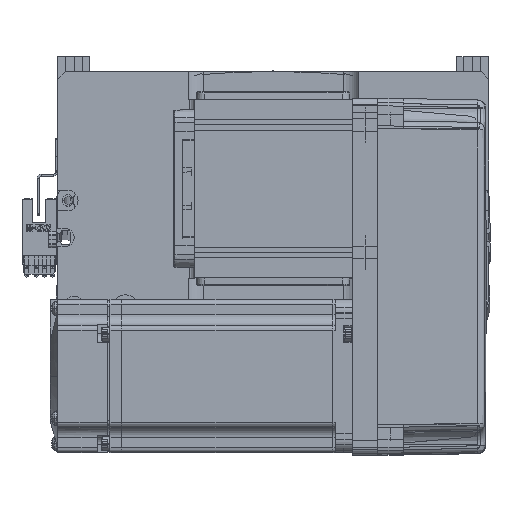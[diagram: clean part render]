
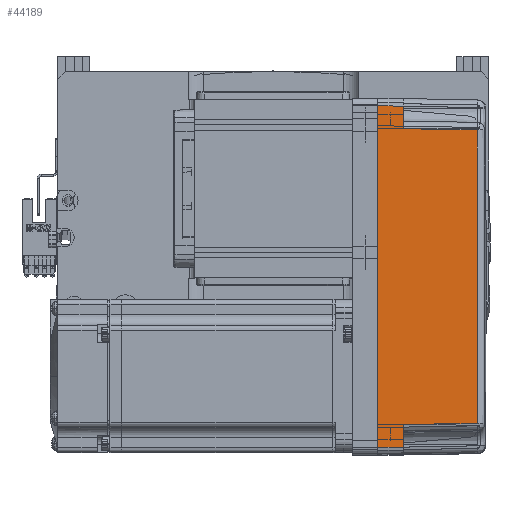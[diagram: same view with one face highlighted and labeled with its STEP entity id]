
A CAD part, top view. The second image highlights one B-rep face of the part: STEP entity #44189.
In plain terms, the highlighted planar face has unit normal (0.018, 0, 1) as drawn and (0, 1, 0.017) by its records, which use the part's own axes.
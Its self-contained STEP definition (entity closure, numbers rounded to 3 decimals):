
#1315 = CARTESIAN_POINT ( 'NONE',  ( 66.826, 35.825, 10. ) ) ;
#3285 = CARTESIAN_POINT ( 'NONE',  ( 67., 36., 0. ) ) ;
#3405 = EDGE_CURVE ( 'NONE', #14090, #61531, #3483, .T. ) ;
#3483 = LINE ( 'NONE', #61075, #48564 ) ;
#3934 = VERTEX_POINT ( 'NONE', #1315 ) ;
#3970 = EDGE_CURVE ( 'NONE', #61531, #47055, #40268, .T. ) ;
#5546 = CARTESIAN_POINT ( 'NONE',  ( -67., 36., 0. ) ) ;
#5758 = DIRECTION ( 'NONE',  ( 0., -0.017, 1. ) ) ;
#5874 = CARTESIAN_POINT ( 'NONE',  ( -58., 35.825, 10. ) ) ;
#7481 = DIRECTION ( 'NONE',  ( 1., 0., 0. ) ) ;
#10750 = VECTOR ( 'NONE', #25927, 1000. ) ;
#12037 = LINE ( 'NONE', #54346, #39156 ) ;
#13147 = EDGE_CURVE ( 'NONE', #65992, #3934, #12037, .T. ) ;
#14090 = VERTEX_POINT ( 'NONE', #63129 ) ;
#14464 = CARTESIAN_POINT ( 'NONE',  ( -57.495, 35.32, 38.985 ) ) ;
#15263 = ORIENTED_EDGE ( 'NONE', *, *, #13147, .F. ) ;
#15356 = CARTESIAN_POINT ( 'NONE',  ( 0., 36., 0. ) ) ;
#15633 = LINE ( 'NONE', #15356, #10750 ) ;
#15829 = CARTESIAN_POINT ( 'NONE',  ( 70., 36., 0. ) ) ;
#16082 = DIRECTION ( 'NONE',  ( 0.017, -0.017, 1. ) ) ;
#17054 = DIRECTION ( 'NONE',  ( -0.017, -0.017, 1. ) ) ;
#19105 = DIRECTION ( 'NONE',  ( 0.017, 0.017, -1. ) ) ;
#21355 = VECTOR ( 'NONE', #19105, 1000. ) ;
#21622 = EDGE_LOOP ( 'NONE', ( #33306, #45573, #32014, #61771, #47780, #45330, #15263, #58359 ) ) ;
#22398 = VECTOR ( 'NONE', #7481, 1000. ) ;
#24231 = VECTOR ( 'NONE', #16082, 1000. ) ;
#24934 = VERTEX_POINT ( 'NONE', #33078 ) ;
#25927 = DIRECTION ( 'NONE',  ( 1., 0., 0. ) ) ;
#29297 = CARTESIAN_POINT ( 'NONE',  ( -19.165, 35.316, 39.181 ) ) ;
#29522 = VECTOR ( 'NONE', #38017, 1000. ) ;
#29667 = EDGE_CURVE ( 'NONE', #24934, #14090, #30775, .T. ) ;
#30775 = LINE ( 'NONE', #5546, #24231 ) ;
#30778 = EDGE_CURVE ( 'NONE', #47055, #63508, #53755, .T. ) ;
#32014 = ORIENTED_EDGE ( 'NONE', *, *, #3970, .T. ) ;
#33078 = CARTESIAN_POINT ( 'NONE',  ( -67., 36., 0. ) ) ;
#33306 = ORIENTED_EDGE ( 'NONE', *, *, #29667, .T. ) ;
#33926 = EDGE_CURVE ( 'NONE', #63508, #41965, #35313, .T. ) ;
#35313 = LINE ( 'NONE', #45662, #21355 ) ;
#35316 = AXIS2_PLACEMENT_3D ( 'NONE', #15829, #63011, #5758 ) ;
#37732 = CARTESIAN_POINT ( 'NONE',  ( 58., 35.825, 10. ) ) ;
#38017 = DIRECTION ( 'NONE',  ( 0.017, -0.017, 1. ) ) ;
#38949 = CARTESIAN_POINT ( 'NONE',  ( 70., 35.825, 10. ) ) ;
#39156 = VECTOR ( 'NONE', #17054, 1000. ) ;
#40159 = CARTESIAN_POINT ( 'NONE',  ( 57.495, 35.32, 38.985 ) ) ;
#40268 = LINE ( 'NONE', #5874, #29522 ) ;
#40603 = CARTESIAN_POINT ( 'NONE',  ( 19.165, 35.316, 39.181 ) ) ;
#41965 = VERTEX_POINT ( 'NONE', #37732 ) ;
#44189 = ADVANCED_FACE ( 'NONE', ( #63776 ), #47273, .T. ) ;
#44556 = CARTESIAN_POINT ( 'NONE',  ( 57.495, 35.32, 38.985 ) ) ;
#44664 = CARTESIAN_POINT ( 'NONE',  ( -58., 35.825, 10. ) ) ;
#45330 = ORIENTED_EDGE ( 'NONE', *, *, #55772, .T. ) ;
#45573 = ORIENTED_EDGE ( 'NONE', *, *, #3405, .T. ) ;
#45662 = CARTESIAN_POINT ( 'NONE',  ( 57.495, 35.32, 38.985 ) ) ;
#47055 = VERTEX_POINT ( 'NONE', #14464 ) ;
#47273 = PLANE ( 'NONE',  #35316 ) ;
#47780 = ORIENTED_EDGE ( 'NONE', *, *, #33926, .T. ) ;
#48564 = VECTOR ( 'NONE', #55816, 1000. ) ;
#49381 = EDGE_CURVE ( 'NONE', #24934, #65992, #15633, .T. ) ;
#51898 = LINE ( 'NONE', #38949, #22398 ) ;
#53755 = B_SPLINE_CURVE_WITH_KNOTS ( 'NONE', 3,
 ( #60904, #29297, #40603, #40159 ),
 .UNSPECIFIED., .F., .F.,
 ( 4, 4 ),
 ( 0., 1. ),
 .UNSPECIFIED. ) ;
#54346 = CARTESIAN_POINT ( 'NONE',  ( 67.001, 36.001, -0.052 ) ) ;
#55772 = EDGE_CURVE ( 'NONE', #41965, #3934, #51898, .T. ) ;
#55816 = DIRECTION ( 'NONE',  ( 1., 0., 0. ) ) ;
#58359 = ORIENTED_EDGE ( 'NONE', *, *, #49381, .F. ) ;
#60904 = CARTESIAN_POINT ( 'NONE',  ( -57.495, 35.32, 38.985 ) ) ;
#61075 = CARTESIAN_POINT ( 'NONE',  ( 70., 35.825, 10. ) ) ;
#61531 = VERTEX_POINT ( 'NONE', #44664 ) ;
#61771 = ORIENTED_EDGE ( 'NONE', *, *, #30778, .T. ) ;
#63011 = DIRECTION ( 'NONE',  ( 0., 1., 0.017 ) ) ;
#63129 = CARTESIAN_POINT ( 'NONE',  ( -66.826, 35.825, 10. ) ) ;
#63508 = VERTEX_POINT ( 'NONE', #44556 ) ;
#63776 = FACE_OUTER_BOUND ( 'NONE', #21622, .T. ) ;
#65992 = VERTEX_POINT ( 'NONE', #3285 ) ;
